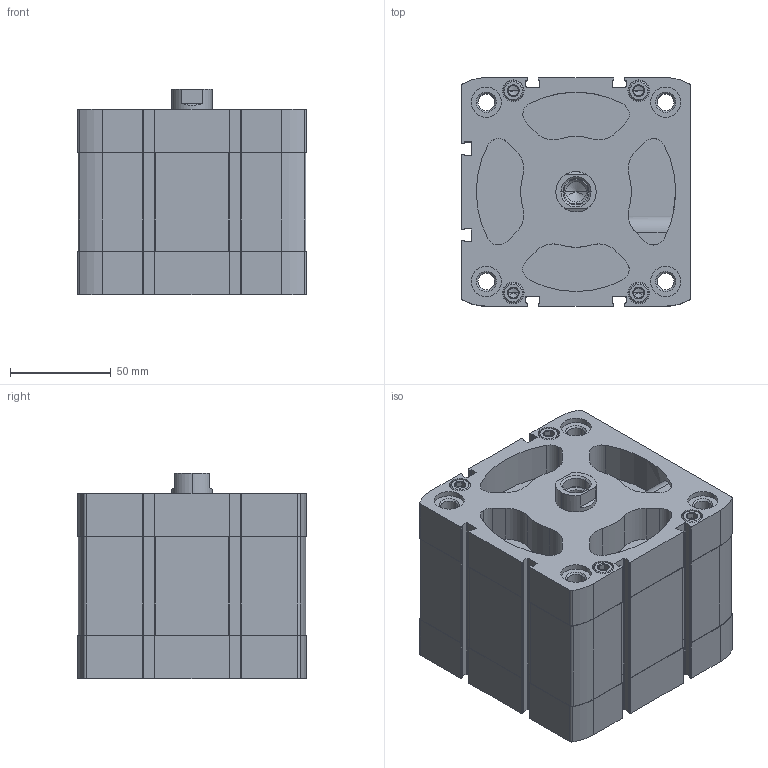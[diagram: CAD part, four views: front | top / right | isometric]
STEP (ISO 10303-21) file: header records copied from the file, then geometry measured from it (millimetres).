
FILE_DESCRIPTION (( 'STEP AP203' ), '1' );
FILE_NAME ('CCN100-25F.STEP', '2020-06-05T18:13:08', ( '' ), ( '' ), 'SwSTEP 2.0', 'SolidWorks 2019', '' );
FILE_SCHEMA (( 'CONFIG_CONTROL_DESIGN' ));
Length unit declared in the file: millimetre
Products named in the file (1): CCN100-25F
Bounding box: 113.5 x 113.5 x 101.8 mm (x, y, z)
Volume: 799860.8 mm3; surface area: 166331.7 mm2
Topology: 2 solids, 2 shells, 628 faces, 1631 edges, 1043 vertices
Faces by surface type: plane 284, cylinder 270, cone 74
Entity records: 20342 total; most frequent: CARTESIAN_POINT 4507, DIRECTION 3451, ORIENTED_EDGE 3226, EDGE_CURVE 1613, AXIS2_PLACEMENT_3D 1281, VERTEX_POINT 1043, LINE 889, VECTOR 889
